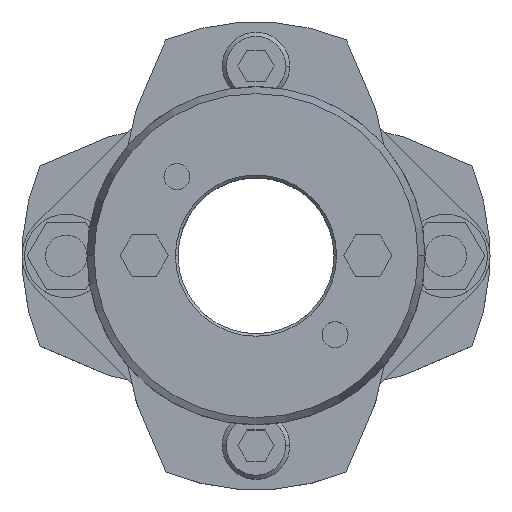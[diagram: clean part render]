
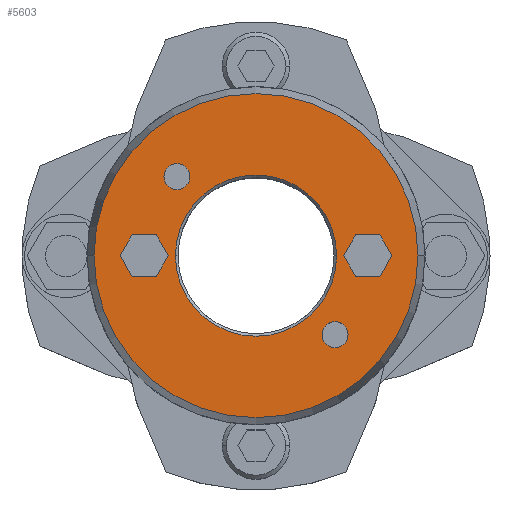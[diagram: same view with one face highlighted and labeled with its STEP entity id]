
A CAD part, top view. The second image highlights one B-rep face of the part: STEP entity #5603.
In plain terms, the highlighted planar face has unit normal (0, 0, 1).
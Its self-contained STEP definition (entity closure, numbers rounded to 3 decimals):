
#857=CARTESIAN_POINT('',(-15.5,0.,39.25));
#858=VERTEX_POINT('',#857);
#874=CARTESIAN_POINT('',(15.5,0.,39.25));
#875=VERTEX_POINT('',#874);
#882=CARTESIAN_POINT('',(0.,0.,39.25));
#883=DIRECTION('',(0.0,0.0,1.0));
#884=DIRECTION('',(-1.0,0.0,0.0));
#885=AXIS2_PLACEMENT_3D('',#882,#883,#884);
#886=CIRCLE('',#885,15.5);
#887=EDGE_CURVE('',#875,#858,#886,.T.);
#1003=CARTESIAN_POINT('',(31.16,0.,39.25));
#1004=VERTEX_POINT('',#1003);
#1013=CARTESIAN_POINT('',(-31.16,0.,39.25));
#1014=VERTEX_POINT('',#1013);
#1015=CARTESIAN_POINT('',(0.,0.,39.25));
#1016=DIRECTION('',(0.0,0.0,-1.0));
#1017=DIRECTION('',(1.0,0.0,0.0));
#1018=AXIS2_PLACEMENT_3D('',#1015,#1016,#1017);
#1019=CIRCLE('',#1018,31.16);
#1020=EDGE_CURVE('',#1004,#1014,#1019,.T.);
#1337=CARTESIAN_POINT('',(-17.703,15.203,39.25));
#1338=VERTEX_POINT('',#1337);
#1354=CARTESIAN_POINT('',(-12.703,15.203,39.25));
#1355=VERTEX_POINT('',#1354);
#1362=CARTESIAN_POINT('',(-15.203,15.203,39.25));
#1363=DIRECTION('',(0.0,0.0,-1.0));
#1364=DIRECTION('',(-1.0,0.0,0.0));
#1365=AXIS2_PLACEMENT_3D('',#1362,#1363,#1364);
#1366=CIRCLE('',#1365,2.5);
#1367=EDGE_CURVE('',#1338,#1355,#1366,.T.);
#1379=CARTESIAN_POINT('',(12.703,-15.203,39.25));
#1380=VERTEX_POINT('',#1379);
#1396=CARTESIAN_POINT('',(17.703,-15.203,39.25));
#1397=VERTEX_POINT('',#1396);
#1404=CARTESIAN_POINT('',(15.203,-15.203,39.25));
#1405=DIRECTION('',(0.0,0.0,-1.0));
#1406=DIRECTION('',(-1.0,0.0,0.0));
#1407=AXIS2_PLACEMENT_3D('',#1404,#1405,#1406);
#1408=CIRCLE('',#1407,2.5);
#1409=EDGE_CURVE('',#1380,#1397,#1408,.T.);
#4209=CARTESIAN_POINT('',(16.881,0.,39.25));
#4210=VERTEX_POINT('',#4209);
#4217=CARTESIAN_POINT('',(19.191,-4.,39.25));
#4218=VERTEX_POINT('',#4217);
#4219=CARTESIAN_POINT('',(19.191,-4.,39.25));
#4220=DIRECTION('',(-0.5,0.866,0.0));
#4221=VECTOR('',#4220,4.619);
#4222=LINE('',#4219,#4221);
#4223=EDGE_CURVE('',#4218,#4210,#4222,.T.);
#4247=CARTESIAN_POINT('',(19.191,4.,39.25));
#4248=VERTEX_POINT('',#4247);
#4255=CARTESIAN_POINT('',(16.881,0.,39.25));
#4256=DIRECTION('',(0.5,0.866,0.0));
#4257=VECTOR('',#4256,4.619);
#4258=LINE('',#4255,#4257);
#4259=EDGE_CURVE('',#4210,#4248,#4258,.T.);
#4278=CARTESIAN_POINT('',(23.809,4.,39.25));
#4279=VERTEX_POINT('',#4278);
#4286=CARTESIAN_POINT('',(19.191,4.,39.25));
#4287=DIRECTION('',(1.0,0.0,0.0));
#4288=VECTOR('',#4287,4.619);
#4289=LINE('',#4286,#4288);
#4290=EDGE_CURVE('',#4248,#4279,#4289,.T.);
#4309=CARTESIAN_POINT('',(26.119,0.,39.25));
#4310=VERTEX_POINT('',#4309);
#4317=CARTESIAN_POINT('',(23.809,4.,39.25));
#4318=DIRECTION('',(0.5,-0.866,0.0));
#4319=VECTOR('',#4318,4.619);
#4320=LINE('',#4317,#4319);
#4321=EDGE_CURVE('',#4279,#4310,#4320,.T.);
#4340=CARTESIAN_POINT('',(23.809,-4.,39.25));
#4341=VERTEX_POINT('',#4340);
#4348=CARTESIAN_POINT('',(26.119,0.,39.25));
#4349=DIRECTION('',(-0.5,-0.866,0.0));
#4350=VECTOR('',#4349,4.619);
#4351=LINE('',#4348,#4350);
#4352=EDGE_CURVE('',#4310,#4341,#4351,.T.);
#4370=CARTESIAN_POINT('',(23.809,-4.,39.25));
#4371=DIRECTION('',(-1.0,0.0,0.0));
#4372=VECTOR('',#4371,4.619);
#4373=LINE('',#4370,#4372);
#4374=EDGE_CURVE('',#4341,#4218,#4373,.T.);
#4409=CARTESIAN_POINT('',(-26.119,0.,39.25));
#4410=VERTEX_POINT('',#4409);
#4417=CARTESIAN_POINT('',(-23.809,-4.,39.25));
#4418=VERTEX_POINT('',#4417);
#4419=CARTESIAN_POINT('',(-23.809,-4.,39.25));
#4420=DIRECTION('',(-0.5,0.866,0.0));
#4421=VECTOR('',#4420,4.619);
#4422=LINE('',#4419,#4421);
#4423=EDGE_CURVE('',#4418,#4410,#4422,.T.);
#4447=CARTESIAN_POINT('',(-23.809,4.,39.25));
#4448=VERTEX_POINT('',#4447);
#4455=CARTESIAN_POINT('',(-26.119,0.,39.25));
#4456=DIRECTION('',(0.5,0.866,0.0));
#4457=VECTOR('',#4456,4.619);
#4458=LINE('',#4455,#4457);
#4459=EDGE_CURVE('',#4410,#4448,#4458,.T.);
#4478=CARTESIAN_POINT('',(-19.191,4.,39.25));
#4479=VERTEX_POINT('',#4478);
#4486=CARTESIAN_POINT('',(-23.809,4.,39.25));
#4487=DIRECTION('',(1.0,0.0,0.0));
#4488=VECTOR('',#4487,4.619);
#4489=LINE('',#4486,#4488);
#4490=EDGE_CURVE('',#4448,#4479,#4489,.T.);
#4509=CARTESIAN_POINT('',(-16.881,0.,39.25));
#4510=VERTEX_POINT('',#4509);
#4517=CARTESIAN_POINT('',(-19.191,4.,39.25));
#4518=DIRECTION('',(0.5,-0.866,0.0));
#4519=VECTOR('',#4518,4.619);
#4520=LINE('',#4517,#4519);
#4521=EDGE_CURVE('',#4479,#4510,#4520,.T.);
#4540=CARTESIAN_POINT('',(-19.191,-4.,39.25));
#4541=VERTEX_POINT('',#4540);
#4548=CARTESIAN_POINT('',(-16.881,0.,39.25));
#4549=DIRECTION('',(-0.5,-0.866,0.0));
#4550=VECTOR('',#4549,4.619);
#4551=LINE('',#4548,#4550);
#4552=EDGE_CURVE('',#4510,#4541,#4551,.T.);
#4570=CARTESIAN_POINT('',(-19.191,-4.,39.25));
#4571=DIRECTION('',(-1.0,0.0,0.0));
#4572=VECTOR('',#4571,4.619);
#4573=LINE('',#4570,#4572);
#4574=EDGE_CURVE('',#4541,#4418,#4573,.T.);
#4600=CARTESIAN_POINT('',(15.203,-15.203,39.25));
#4601=DIRECTION('',(0.0,0.0,-1.0));
#4602=DIRECTION('',(-1.0,0.0,0.0));
#4603=AXIS2_PLACEMENT_3D('',#4600,#4601,#4602);
#4604=CIRCLE('',#4603,2.5);
#4605=EDGE_CURVE('',#1397,#1380,#4604,.T.);
#4634=CARTESIAN_POINT('',(-15.203,15.203,39.25));
#4635=DIRECTION('',(0.0,0.0,-1.0));
#4636=DIRECTION('',(-1.0,0.0,0.0));
#4637=AXIS2_PLACEMENT_3D('',#4634,#4635,#4636);
#4638=CIRCLE('',#4637,2.5);
#4639=EDGE_CURVE('',#1355,#1338,#4638,.T.);
#5550=CARTESIAN_POINT('',(0.,0.,39.25));
#5551=DIRECTION('',(0.0,0.0,-1.0));
#5552=DIRECTION('',(1.0,0.0,0.0));
#5553=AXIS2_PLACEMENT_3D('',#5550,#5551,#5552);
#5554=CIRCLE('',#5553,31.16);
#5555=EDGE_CURVE('',#1014,#1004,#5554,.T.);
#5560=CARTESIAN_POINT('',(-2.682,0.,39.25));
#5561=DIRECTION('',(0.0,0.0,1.0));
#5562=DIRECTION('',(-1.0,0.0,0.0));
#5563=AXIS2_PLACEMENT_3D('',#5560,#5561,#5562);
#5564=PLANE('',#5563);
#5565=ORIENTED_EDGE('',*,*,#5555,.F.);
#5566=ORIENTED_EDGE('',*,*,#1020,.F.);
#5567=EDGE_LOOP('',(#5565,#5566));
#5568=FACE_OUTER_BOUND('',#5567,.T.);
#5569=ORIENTED_EDGE('',*,*,#4223,.T.);
#5570=ORIENTED_EDGE('',*,*,#4259,.T.);
#5571=ORIENTED_EDGE('',*,*,#4290,.T.);
#5572=ORIENTED_EDGE('',*,*,#4321,.T.);
#5573=ORIENTED_EDGE('',*,*,#4352,.T.);
#5574=ORIENTED_EDGE('',*,*,#4374,.T.);
#5575=EDGE_LOOP('',(#5569,#5570,#5571,#5572,#5573,#5574));
#5576=FACE_BOUND('',#5575,.T.);
#5577=ORIENTED_EDGE('',*,*,#4423,.T.);
#5578=ORIENTED_EDGE('',*,*,#4459,.T.);
#5579=ORIENTED_EDGE('',*,*,#4490,.T.);
#5580=ORIENTED_EDGE('',*,*,#4521,.T.);
#5581=ORIENTED_EDGE('',*,*,#4552,.T.);
#5582=ORIENTED_EDGE('',*,*,#4574,.T.);
#5583=EDGE_LOOP('',(#5577,#5578,#5579,#5580,#5581,#5582));
#5584=FACE_BOUND('',#5583,.T.);
#5585=ORIENTED_EDGE('',*,*,#1409,.T.);
#5586=ORIENTED_EDGE('',*,*,#4605,.T.);
#5587=EDGE_LOOP('',(#5585,#5586));
#5588=FACE_BOUND('',#5587,.T.);
#5589=ORIENTED_EDGE('',*,*,#1367,.T.);
#5590=ORIENTED_EDGE('',*,*,#4639,.T.);
#5591=EDGE_LOOP('',(#5589,#5590));
#5592=FACE_BOUND('',#5591,.T.);
#5593=ORIENTED_EDGE('',*,*,#887,.F.);
#5594=CARTESIAN_POINT('',(0.,0.,39.25));
#5595=DIRECTION('',(0.0,0.0,1.0));
#5596=DIRECTION('',(-1.0,0.0,0.0));
#5597=AXIS2_PLACEMENT_3D('',#5594,#5595,#5596);
#5598=CIRCLE('',#5597,15.5);
#5599=EDGE_CURVE('',#858,#875,#5598,.T.);
#5600=ORIENTED_EDGE('',*,*,#5599,.F.);
#5601=EDGE_LOOP('',(#5593,#5600));
#5602=FACE_BOUND('',#5601,.T.);
#5603=ADVANCED_FACE('',(#5568,#5576,#5584,#5588,#5592,#5602),#5564,.T.);
